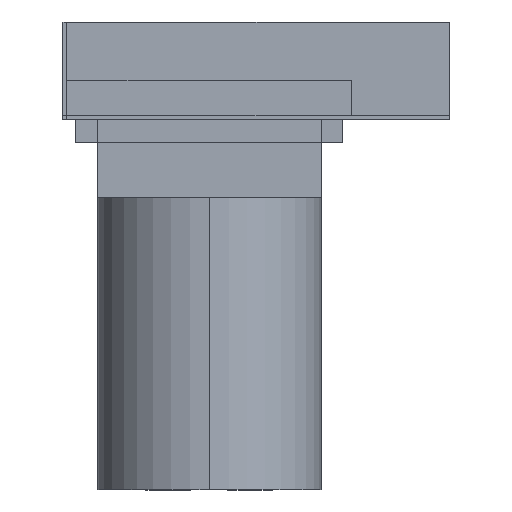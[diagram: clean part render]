
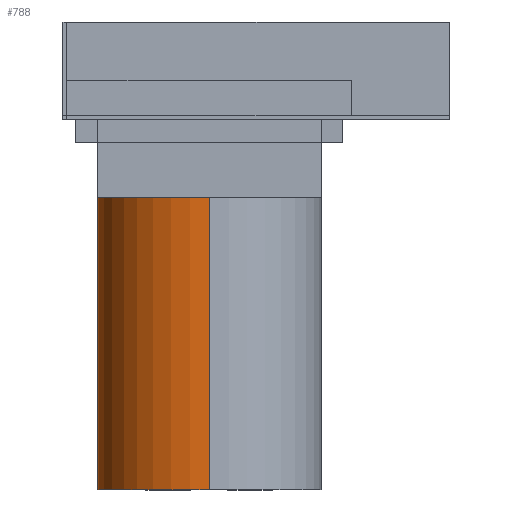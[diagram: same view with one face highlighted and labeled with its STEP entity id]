
A CAD part, left-side view. The second image highlights one B-rep face of the part: STEP entity #788.
In plain terms, the highlighted cylindrical face has radius 57.35 mm (diameter 114.7 mm), a partial arc.
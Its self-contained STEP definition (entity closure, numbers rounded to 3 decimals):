
#15=CIRCLE('',#869,57.35);
#16=CIRCLE('',#870,57.35);
#18=CYLINDRICAL_SURFACE('',#868,57.35);
#48=FACE_OUTER_BOUND('',#101,.T.);
#101=EDGE_LOOP('',(#570,#571,#572,#573));
#165=LINE('',#1179,#266);
#166=LINE('',#1182,#267);
#266=VECTOR('',#960,304.8);
#267=VECTOR('',#963,304.8);
#359=VERTEX_POINT('',#1175);
#360=VERTEX_POINT('',#1176);
#361=VERTEX_POINT('',#1178);
#362=VERTEX_POINT('',#1180);
#438=EDGE_CURVE('',#361,#359,#165,.T.);
#440=EDGE_CURVE('',#360,#362,#166,.T.);
#441=EDGE_CURVE('',#360,#359,#15,.T.);
#442=EDGE_CURVE('',#361,#362,#16,.T.);
#570=ORIENTED_EDGE('',*,*,#441,.F.);
#571=ORIENTED_EDGE('',*,*,#440,.T.);
#572=ORIENTED_EDGE('',*,*,#442,.F.);
#573=ORIENTED_EDGE('',*,*,#438,.T.);
#788=ADVANCED_FACE('',(#48),#18,.T.);
#868=AXIS2_PLACEMENT_3D('',#1183,#964,#965);
#869=AXIS2_PLACEMENT_3D('',#1184,#966,#967);
#870=AXIS2_PLACEMENT_3D('',#1185,#968,#969);
#960=DIRECTION('',(0.,0.,1.));
#963=DIRECTION('',(0.,0.,-1.));
#964=DIRECTION('center_axis',(0.,0.,1.));
#965=DIRECTION('ref_axis',(-1.,0.,0.));
#966=DIRECTION('center_axis',(0.,0.,1.));
#967=DIRECTION('ref_axis',(-1.,0.,0.));
#968=DIRECTION('center_axis',(0.,0.,-1.));
#969=DIRECTION('ref_axis',(-1.,0.,0.));
#1175=CARTESIAN_POINT('',(-57.35,0.,-60.));
#1176=CARTESIAN_POINT('',(57.35,0.,-60.));
#1178=CARTESIAN_POINT('',(-57.35,0.,-210.));
#1179=CARTESIAN_POINT('',(-57.35,0.,-210.));
#1180=CARTESIAN_POINT('',(57.35,0.,-210.));
#1182=CARTESIAN_POINT('',(57.35,0.,-60.));
#1183=CARTESIAN_POINT('Origin',(0.,0.,
-210.));
#1184=CARTESIAN_POINT('Origin',(0.,0.,
-60.));
#1185=CARTESIAN_POINT('Origin',(0.,0.,
-210.));
